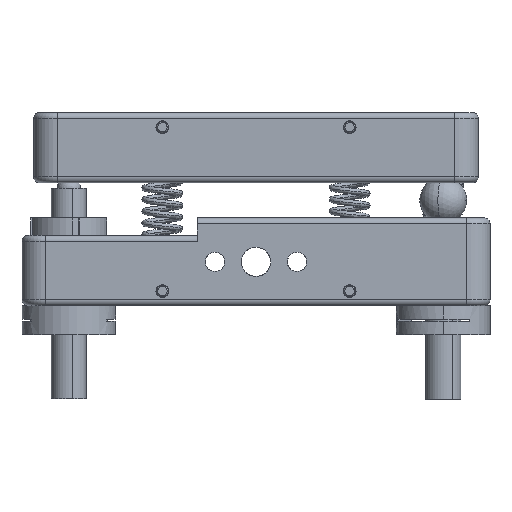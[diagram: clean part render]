
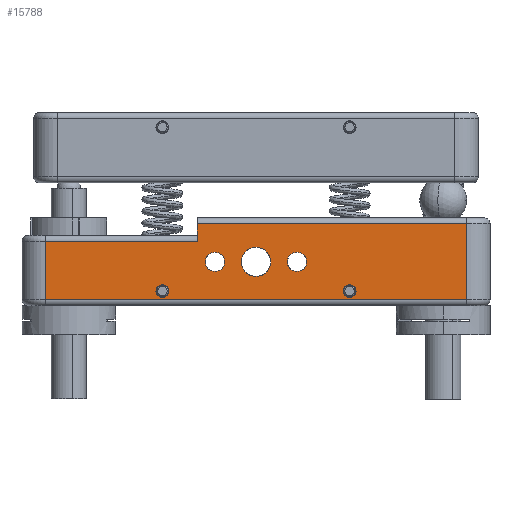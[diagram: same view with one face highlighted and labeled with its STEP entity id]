
A CAD part, left-side view. The second image highlights one B-rep face of the part: STEP entity #15788.
In plain terms, the highlighted planar face has unit normal (-1, 0, 0).
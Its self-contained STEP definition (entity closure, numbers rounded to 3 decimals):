
#65 = DIRECTION ( 'NONE',  ( 0., 0., 1. ) ) ;
#143 = FACE_BOUND ( 'NONE', #3187, .T. ) ;
#180 = EDGE_CURVE ( 'NONE', #7738, #2654, #3676, .T. ) ;
#215 = EDGE_CURVE ( 'NONE', #20645, #22135, #4257, .T. ) ;
#258 = VECTOR ( 'NONE', #19213, 1000. ) ;
#328 = CIRCLE ( 'NONE', #18093, 1.1 ) ;
#635 = CARTESIAN_POINT ( 'NONE',  ( -41.266, 36.345, 15. ) ) ;
#813 = ORIENTED_EDGE ( 'NONE', *, *, #23523, .T. ) ;
#816 = CARTESIAN_POINT ( 'NONE',  ( -41.266, -15.655, 1.4 ) ) ;
#976 = ORIENTED_EDGE ( 'NONE', *, *, #3968, .F. ) ;
#1146 = DIRECTION ( 'NONE',  ( -1., 0., 0. ) ) ;
#1177 = DIRECTION ( 'NONE',  ( -1., 0., 0. ) ) ;
#1203 = CARTESIAN_POINT ( 'NONE',  ( -41.266, 10.345, 12. ) ) ;
#1565 = DIRECTION ( 'NONE',  ( -1., 0., 0. ) ) ;
#1901 = ORIENTED_EDGE ( 'NONE', *, *, #215, .T. ) ;
#2540 = CARTESIAN_POINT ( 'NONE',  ( -41.266, 36.345, 1. ) ) ;
#2551 = CARTESIAN_POINT ( 'NONE',  ( -41.266, -6.655, 5.85 ) ) ;
#2647 = EDGE_CURVE ( 'NONE', #2654, #20645, #10088, .T. ) ;
#2654 = VERTEX_POINT ( 'NONE', #2540 ) ;
#2942 = ORIENTED_EDGE ( 'NONE', *, *, #2647, .T. ) ;
#2965 = CIRCLE ( 'NONE', #10478, 2.5 ) ;
#3035 = CARTESIAN_POINT ( 'NONE',  ( -41.266, 7.345, 9.15 ) ) ;
#3187 = EDGE_LOOP ( 'NONE', ( #18031, #8820 ) ) ;
#3349 = DIRECTION ( 'NONE',  ( -1., 0., 0. ) ) ;
#3676 = LINE ( 'NONE', #635, #7928 ) ;
#3898 = CARTESIAN_POINT ( 'NONE',  ( -41.266, -35.655, 14. ) ) ;
#3968 = EDGE_CURVE ( 'NONE', #4992, #22472, #22272, .T. ) ;
#4080 = ORIENTED_EDGE ( 'NONE', *, *, #9612, .F. ) ;
#4230 = CIRCLE ( 'NONE', #13293, 1.1 ) ;
#4257 = LINE ( 'NONE', #13416, #12192 ) ;
#4432 = FACE_BOUND ( 'NONE', #21642, .T. ) ;
#4491 = CARTESIAN_POINT ( 'NONE',  ( -41.266, 16.345, 2.5 ) ) ;
#4498 = PLANE ( 'NONE',  #16373 ) ;
#4562 = LINE ( 'NONE', #6506, #258 ) ;
#4583 = DIRECTION ( 'NONE',  ( 0., 0., -1. ) ) ;
#4627 = DIRECTION ( 'NONE',  ( -1., 0., 0. ) ) ;
#4681 = EDGE_LOOP ( 'NONE', ( #7665, #14894 ) ) ;
#4992 = VERTEX_POINT ( 'NONE', #816 ) ;
#5275 = VECTOR ( 'NONE', #11655, 1000. ) ;
#5290 = AXIS2_PLACEMENT_3D ( 'NONE', #10859, #23591, #12692 ) ;
#5364 = DIRECTION ( 'NONE',  ( -1., 0., 0. ) ) ;
#5447 = ORIENTED_EDGE ( 'NONE', *, *, #9501, .T. ) ;
#5785 = CIRCLE ( 'NONE', #5290, 1.65 ) ;
#5788 = VERTEX_POINT ( 'NONE', #2551 ) ;
#6273 = EDGE_CURVE ( 'NONE', #22771, #14382, #23061, .T. ) ;
#6304 = DIRECTION ( 'NONE',  ( 0., 0., 1. ) ) ;
#6506 = CARTESIAN_POINT ( 'NONE',  ( -41.266, 10.345, 14. ) ) ;
#6788 = ORIENTED_EDGE ( 'NONE', *, *, #21241, .F. ) ;
#7149 = ORIENTED_EDGE ( 'NONE', *, *, #9429, .F. ) ;
#7560 = CARTESIAN_POINT ( 'NONE',  ( -41.266, 0.345, 7.5 ) ) ;
#7665 = ORIENTED_EDGE ( 'NONE', *, *, #20626, .F. ) ;
#7738 = VERTEX_POINT ( 'NONE', #9355 ) ;
#7928 = VECTOR ( 'NONE', #20620, 1000. ) ;
#8182 = VERTEX_POINT ( 'NONE', #22083 ) ;
#8223 = VECTOR ( 'NONE', #12130, 1000. ) ;
#8519 = VECTOR ( 'NONE', #18353, 1000. ) ;
#8820 = ORIENTED_EDGE ( 'NONE', *, *, #19711, .F. ) ;
#8876 = CIRCLE ( 'NONE', #19618, 1.65 ) ;
#9062 = VERTEX_POINT ( 'NONE', #18019 ) ;
#9224 = FACE_BOUND ( 'NONE', #17440, .T. ) ;
#9355 = CARTESIAN_POINT ( 'NONE',  ( -41.266, 36.345, 11. ) ) ;
#9373 = DIRECTION ( 'NONE',  ( 0., 0., 1. ) ) ;
#9429 = EDGE_CURVE ( 'NONE', #22472, #4992, #9934, .T. ) ;
#9501 = EDGE_CURVE ( 'NONE', #22135, #9062, #4562, .T. ) ;
#9520 = VERTEX_POINT ( 'NONE', #17391 ) ;
#9612 = EDGE_CURVE ( 'NONE', #8182, #9062, #13038, .T. ) ;
#9846 = ORIENTED_EDGE ( 'NONE', *, *, #6273, .F. ) ;
#9934 = CIRCLE ( 'NONE', #19859, 1.1 ) ;
#10088 = LINE ( 'NONE', #22556, #5275 ) ;
#10478 = AXIS2_PLACEMENT_3D ( 'NONE', #12404, #1565, #14247 ) ;
#10511 = VERTEX_POINT ( 'NONE', #22850 ) ;
#10809 = CARTESIAN_POINT ( 'NONE',  ( -41.266, -6.655, 9.15 ) ) ;
#10859 = CARTESIAN_POINT ( 'NONE',  ( -41.266, -6.655, 7.5 ) ) ;
#10942 = DIRECTION ( 'NONE',  ( -1., 0., 0. ) ) ;
#11179 = EDGE_LOOP ( 'NONE', ( #13029, #2942, #1901, #5447, #4080, #813 ) ) ;
#11187 = EDGE_CURVE ( 'NONE', #9520, #23319, #4230, .T. ) ;
#11655 = DIRECTION ( 'NONE',  ( 0., -1., 0. ) ) ;
#11726 = CIRCLE ( 'NONE', #13073, 2.5 ) ;
#11781 = CARTESIAN_POINT ( 'NONE',  ( -41.266, 40.345, 15. ) ) ;
#11909 = AXIS2_PLACEMENT_3D ( 'NONE', #14207, #3349, #16052 ) ;
#11980 = CARTESIAN_POINT ( 'NONE',  ( -41.266, -15.655, 3.6 ) ) ;
#11998 = CARTESIAN_POINT ( 'NONE',  ( -41.266, 7.345, 7.5 ) ) ;
#12028 = CARTESIAN_POINT ( 'NONE',  ( -41.266, -15.655, 2.5 ) ) ;
#12130 = DIRECTION ( 'NONE',  ( 0., 0., 1. ) ) ;
#12192 = VECTOR ( 'NONE', #15261, 1000. ) ;
#12404 = CARTESIAN_POINT ( 'NONE',  ( -41.266, 0.345, 7.5 ) ) ;
#12692 = DIRECTION ( 'NONE',  ( 0., 0., 1. ) ) ;
#13029 = ORIENTED_EDGE ( 'NONE', *, *, #180, .T. ) ;
#13038 = LINE ( 'NONE', #1203, #8223 ) ;
#13073 = AXIS2_PLACEMENT_3D ( 'NONE', #7560, #20243, #9373 ) ;
#13293 = AXIS2_PLACEMENT_3D ( 'NONE', #4491, #17191, #6304 ) ;
#13409 = ORIENTED_EDGE ( 'NONE', *, *, #20447, .F. ) ;
#13416 = CARTESIAN_POINT ( 'NONE',  ( -41.266, -35.655, 15. ) ) ;
#13464 = CARTESIAN_POINT ( 'NONE',  ( -41.266, 7.345, 5.85 ) ) ;
#13503 = FACE_OUTER_BOUND ( 'NONE', #11179, .T. ) ;
#13833 = DIRECTION ( 'NONE',  ( 0., 0., 1. ) ) ;
#13860 = DIRECTION ( 'NONE',  ( 0., 0., 1. ) ) ;
#14207 = CARTESIAN_POINT ( 'NONE',  ( -41.266, 7.345, 7.5 ) ) ;
#14247 = DIRECTION ( 'NONE',  ( 0., 0., 1. ) ) ;
#14382 = VERTEX_POINT ( 'NONE', #3035 ) ;
#14614 = CARTESIAN_POINT ( 'NONE',  ( -41.266, -35.655, 1. ) ) ;
#14791 = CARTESIAN_POINT ( 'NONE',  ( -41.266, 36.345, 11. ) ) ;
#14894 = ORIENTED_EDGE ( 'NONE', *, *, #18243, .F. ) ;
#15261 = DIRECTION ( 'NONE',  ( 0., 0., 1. ) ) ;
#15454 = DIRECTION ( 'NONE',  ( 1., 0., 0. ) ) ;
#15499 = CARTESIAN_POINT ( 'NONE',  ( -41.266, -15.655, 2.5 ) ) ;
#15788 = ADVANCED_FACE ( 'NONE', ( #9224, #4432, #143, #23188, #18324, #13503 ), #4498, .F. ) ;
#15862 = AXIS2_PLACEMENT_3D ( 'NONE', #21838, #10942, #65 ) ;
#16052 = DIRECTION ( 'NONE',  ( 0., 0., 1. ) ) ;
#16249 = CARTESIAN_POINT ( 'NONE',  ( -41.266, 16.345, 2.5 ) ) ;
#16373 = AXIS2_PLACEMENT_3D ( 'NONE', #11781, #15454, #4583 ) ;
#17191 = DIRECTION ( 'NONE',  ( -1., 0., 0. ) ) ;
#17307 = DIRECTION ( 'NONE',  ( 0., 0., 1. ) ) ;
#17391 = CARTESIAN_POINT ( 'NONE',  ( -41.266, 16.345, 1.4 ) ) ;
#17440 = EDGE_LOOP ( 'NONE', ( #7149, #976 ) ) ;
#17482 = EDGE_LOOP ( 'NONE', ( #13409, #9846 ) ) ;
#17727 = ORIENTED_EDGE ( 'NONE', *, *, #11187, .F. ) ;
#18019 = CARTESIAN_POINT ( 'NONE',  ( -41.266, 10.345, 14. ) ) ;
#18031 = ORIENTED_EDGE ( 'NONE', *, *, #20166, .F. ) ;
#18046 = DIRECTION ( 'NONE',  ( 0., 0., 1. ) ) ;
#18093 = AXIS2_PLACEMENT_3D ( 'NONE', #16249, #5364, #18046 ) ;
#18099 = CARTESIAN_POINT ( 'NONE',  ( -41.266, 0.345, 10. ) ) ;
#18126 = CARTESIAN_POINT ( 'NONE',  ( -41.266, 16.345, 3.6 ) ) ;
#18238 = VERTEX_POINT ( 'NONE', #18099 ) ;
#18243 = EDGE_CURVE ( 'NONE', #5788, #21283, #5785, .T. ) ;
#18324 = FACE_BOUND ( 'NONE', #4681, .T. ) ;
#18353 = DIRECTION ( 'NONE',  ( 0., 1., 0. ) ) ;
#19213 = DIRECTION ( 'NONE',  ( 0., 1., 0. ) ) ;
#19324 = LINE ( 'NONE', #14791, #8519 ) ;
#19618 = AXIS2_PLACEMENT_3D ( 'NONE', #11998, #1146, #13833 ) ;
#19711 = EDGE_CURVE ( 'NONE', #10511, #18238, #2965, .T. ) ;
#19859 = AXIS2_PLACEMENT_3D ( 'NONE', #15499, #4627, #17307 ) ;
#20166 = EDGE_CURVE ( 'NONE', #18238, #10511, #11726, .T. ) ;
#20243 = DIRECTION ( 'NONE',  ( -1., 0., 0. ) ) ;
#20447 = EDGE_CURVE ( 'NONE', #14382, #22771, #8876, .T. ) ;
#20498 = CIRCLE ( 'NONE', #15862, 1.65 ) ;
#20620 = DIRECTION ( 'NONE',  ( 0., 0., -1. ) ) ;
#20626 = EDGE_CURVE ( 'NONE', #21283, #5788, #20498, .T. ) ;
#20645 = VERTEX_POINT ( 'NONE', #14614 ) ;
#20876 = AXIS2_PLACEMENT_3D ( 'NONE', #12028, #1177, #13860 ) ;
#21241 = EDGE_CURVE ( 'NONE', #23319, #9520, #328, .T. ) ;
#21283 = VERTEX_POINT ( 'NONE', #10809 ) ;
#21642 = EDGE_LOOP ( 'NONE', ( #6788, #17727 ) ) ;
#21838 = CARTESIAN_POINT ( 'NONE',  ( -41.266, -6.655, 7.5 ) ) ;
#22083 = CARTESIAN_POINT ( 'NONE',  ( -41.266, 10.345, 11. ) ) ;
#22135 = VERTEX_POINT ( 'NONE', #3898 ) ;
#22272 = CIRCLE ( 'NONE', #20876, 1.1 ) ;
#22472 = VERTEX_POINT ( 'NONE', #11980 ) ;
#22556 = CARTESIAN_POINT ( 'NONE',  ( -41.266, 40.345, 1. ) ) ;
#22771 = VERTEX_POINT ( 'NONE', #13464 ) ;
#22850 = CARTESIAN_POINT ( 'NONE',  ( -41.266, 0.345, 5. ) ) ;
#23061 = CIRCLE ( 'NONE', #11909, 1.65 ) ;
#23188 = FACE_BOUND ( 'NONE', #17482, .T. ) ;
#23319 = VERTEX_POINT ( 'NONE', #18126 ) ;
#23523 = EDGE_CURVE ( 'NONE', #8182, #7738, #19324, .T. ) ;
#23591 = DIRECTION ( 'NONE',  ( -1., 0., 0. ) ) ;
